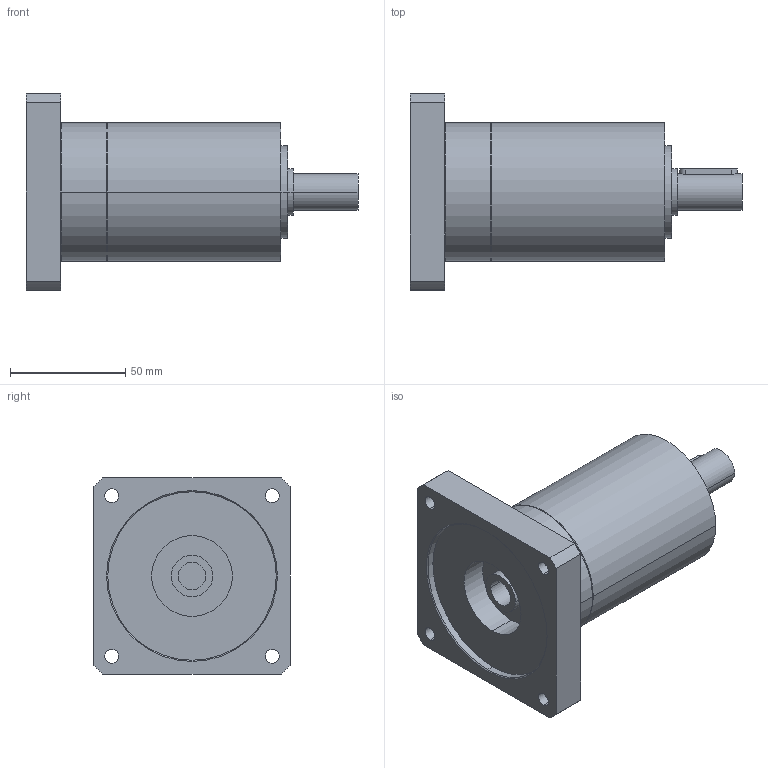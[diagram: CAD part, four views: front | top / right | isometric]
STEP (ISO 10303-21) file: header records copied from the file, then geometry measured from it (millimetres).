
FILE_DESCRIPTION(('CoCreate Modeling STEP Export'),'2;1');
FILE_NAME('GPR75_ig-9-12-16-20-24-30-36_16_B14_12_P36.stp','2014-08-25T16:32:59',(''),(''),'CoCreate Modeling STEP processor for AP214 (Solid Model)','CoCreate Modeling 16.00C 25-Feb-2009 (C) Parametric Technology GmbH','');
FILE_SCHEMA(('AUTOMOTIVE_DESIGN { 1 0 10303 214 1 1 1 1 }'));
Length unit declared in the file: millimetre
Products named in the file (2): GPR75_ig-9-12-16-20-24-30-36_16_B14_12_P36
Assembly tree (1 placements, depth 2):
  GPR75_ig-9-12-16-20-24-30-36_16_B14_12_P36
    GPR75_ig-9-12-16-20-24-30-36_16_B14_12_P36
Bounding box: 143.9 x 85 x 85 mm (x, y, z)
Volume: 358134.6 mm3; surface area: 44722.8 mm2
Topology: 1 solids, 1 shells, 72 faces, 188 edges, 130 vertices
Faces by surface type: cylinder 42, plane 22, cone 8
Entity records: 1959 total; most frequent: ORIENTED_EDGE 372, CARTESIAN_POINT 362, DIRECTION 268, EDGE_CURVE 186, VERTEX_POINT 130, AXIS2_PLACEMENT_3D 100, EDGE_LOOP 94, FACE_OUTER_BOUND 72
